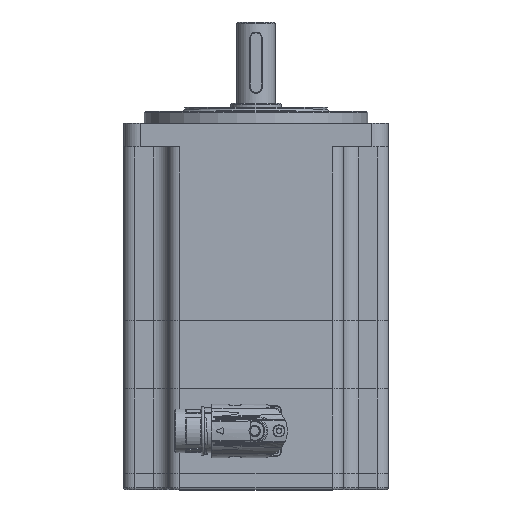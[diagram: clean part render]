
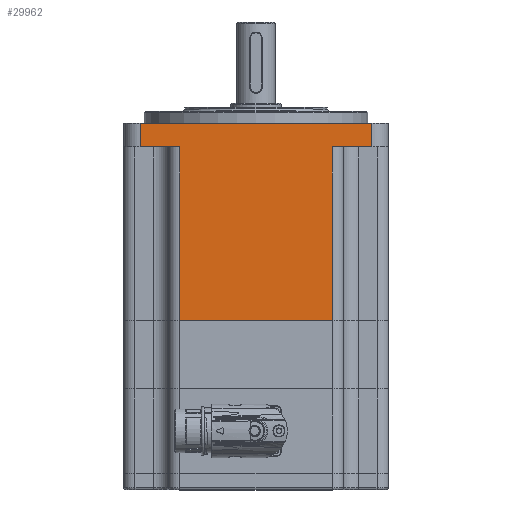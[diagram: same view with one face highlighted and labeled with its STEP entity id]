
A CAD part, top view. The second image highlights one B-rep face of the part: STEP entity #29962.
In plain terms, the highlighted planar face has unit normal (0, 0, 1).
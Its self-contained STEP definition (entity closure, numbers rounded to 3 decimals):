
#8978=LINE('',#48250,#10580);
#9020=LINE('',#49218,#10622);
#9025=LINE('',#49245,#10627);
#9044=LINE('',#49321,#10646);
#9045=LINE('',#49322,#10647);
#9046=LINE('',#49324,#10648);
#9047=LINE('',#49326,#10649);
#9048=LINE('',#49327,#10650);
#10580=VECTOR('',#36500,1000.);
#10622=VECTOR('',#36968,1000.);
#10627=VECTOR('',#36991,1000.);
#10646=VECTOR('',#37070,1000.);
#10647=VECTOR('',#37071,1000.);
#10648=VECTOR('',#37072,1000.);
#10649=VECTOR('',#37073,1000.);
#10650=VECTOR('',#37074,1000.);
#15808=ORIENTED_EDGE('',*,*,#19920,.F.);
#15809=ORIENTED_EDGE('',*,*,#20213,.T.);
#15810=ORIENTED_EDGE('',*,*,#20177,.F.);
#15811=ORIENTED_EDGE('',*,*,#20214,.T.);
#15812=ORIENTED_EDGE('',*,*,#20215,.F.);
#15813=ORIENTED_EDGE('',*,*,#20216,.T.);
#15814=ORIENTED_EDGE('',*,*,#20165,.F.);
#15815=ORIENTED_EDGE('',*,*,#20217,.T.);
#19920=EDGE_CURVE('',#22633,#22634,#8978,.T.);
#20165=EDGE_CURVE('',#22788,#22789,#9020,.T.);
#20177=EDGE_CURVE('',#22800,#22801,#9025,.T.);
#20213=EDGE_CURVE('',#22633,#22801,#9044,.T.);
#20214=EDGE_CURVE('',#22800,#22828,#9045,.T.);
#20215=EDGE_CURVE('',#22829,#22828,#9046,.T.);
#20216=EDGE_CURVE('',#22829,#22789,#9047,.F.);
#20217=EDGE_CURVE('',#22788,#22634,#9048,.T.);
#22633=VERTEX_POINT('',#48251);
#22634=VERTEX_POINT('',#48252);
#22788=VERTEX_POINT('',#49219);
#22789=VERTEX_POINT('',#49220);
#22800=VERTEX_POINT('',#49244);
#22801=VERTEX_POINT('',#49246);
#22828=VERTEX_POINT('',#49323);
#22829=VERTEX_POINT('',#49325);
#25874=EDGE_LOOP('',(#15808,#15809,#15810,#15811,#15812,#15813,#15814,#15815));
#27786=FACE_BOUND('',#25874,.T.);
#28664=PLANE('',#32251);
#29962=ADVANCED_FACE('',(#27786),#28664,.T.);
#32251=AXIS2_PLACEMENT_3D('',#49320,#37068,#37069);
#36500=DIRECTION('',(1.,0.,0.));
#36968=DIRECTION('',(1.,0.,0.));
#36991=DIRECTION('',(1.,0.,0.));
#37068=DIRECTION('',(0.,0.,1.));
#37069=DIRECTION('',(0.,-1.,0.));
#37070=DIRECTION('',(0.,-1.,0.));
#37071=DIRECTION('',(0.,-1.,0.));
#37072=DIRECTION('',(-1.,0.,0.));
#37073=DIRECTION('',(0.,-1.,0.));
#37074=DIRECTION('',(0.,1.,0.));
#48250=CARTESIAN_POINT('',(65.,98.2,65.));
#48251=CARTESIAN_POINT('',(-37.5,98.2,65.));
#48252=CARTESIAN_POINT('',(37.5,98.2,65.));
#49218=CARTESIAN_POINT('',(65.,12.7,65.));
#49219=CARTESIAN_POINT('',(37.5,12.7,65.));
#49220=CARTESIAN_POINT('',(57.,12.7,65.));
#49244=CARTESIAN_POINT('',(-57.,12.7,65.));
#49245=CARTESIAN_POINT('',(65.,12.7,65.));
#49246=CARTESIAN_POINT('',(-37.5,12.7,65.));
#49320=CARTESIAN_POINT('',(65.,309.164,65.));
#49321=CARTESIAN_POINT('',(-37.5,309.164,65.));
#49322=CARTESIAN_POINT('',(-57.,309.164,65.));
#49323=CARTESIAN_POINT('',(-57.,1.2,65.));
#49324=CARTESIAN_POINT('',(65.,1.2,65.));
#49325=CARTESIAN_POINT('',(57.,1.2,65.));
#49326=CARTESIAN_POINT('',(57.,309.164,65.));
#49327=CARTESIAN_POINT('',(37.5,309.164,65.));
